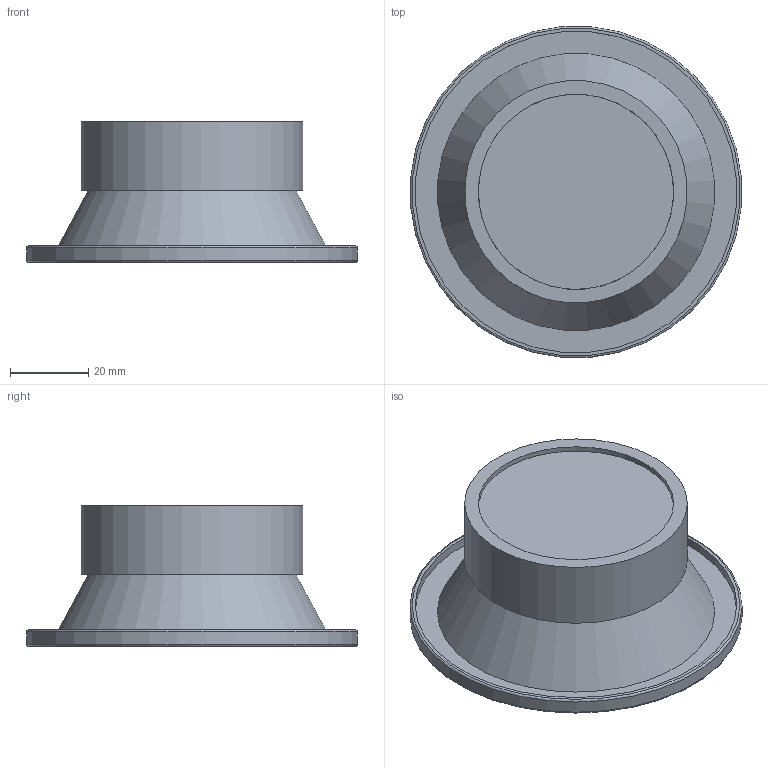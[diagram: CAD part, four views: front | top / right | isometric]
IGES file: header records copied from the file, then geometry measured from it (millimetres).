
Start section: SolidWorks IGES file using analytic representation for surfaces
Global section: file name: X:\PRODUKT\Modele 3D_WWW\_KOLEKCJE WWW\CHARLIE-8367-8366\CHARLIE-8367-8366.IGS; native system: SolidWorks 2021; preprocessor: SolidWorks 2021; author: gabriela.tworek; date: 221121.084344; units: millimetre
Bounding box: 84.69 x 84.69 x 36 mm (x, y, z)
Surface area: 28734.6 mm2 (no closed solid volume)
Topology: 0 solids, 0 shells, 22 faces, 52 edges, 40 vertices
Faces by surface type: revolution 12, bspline 10
